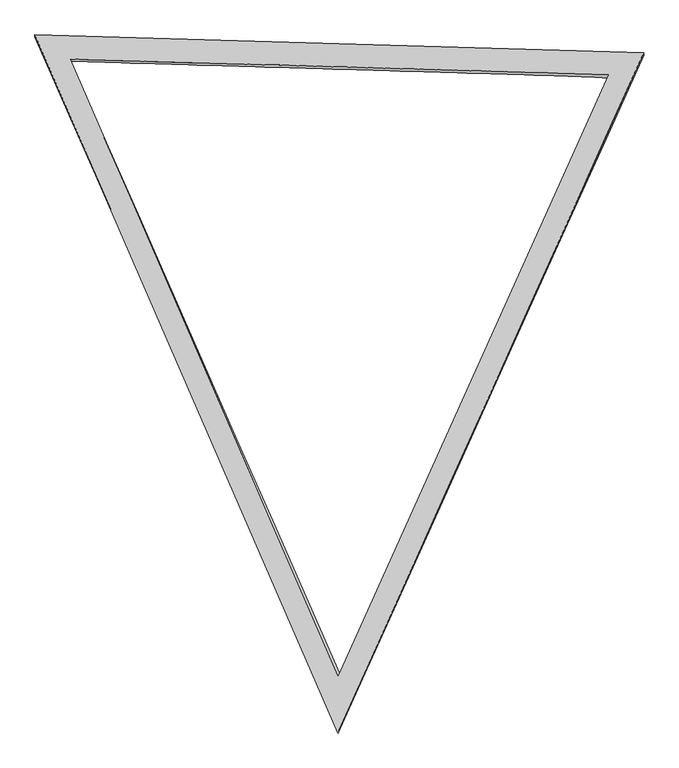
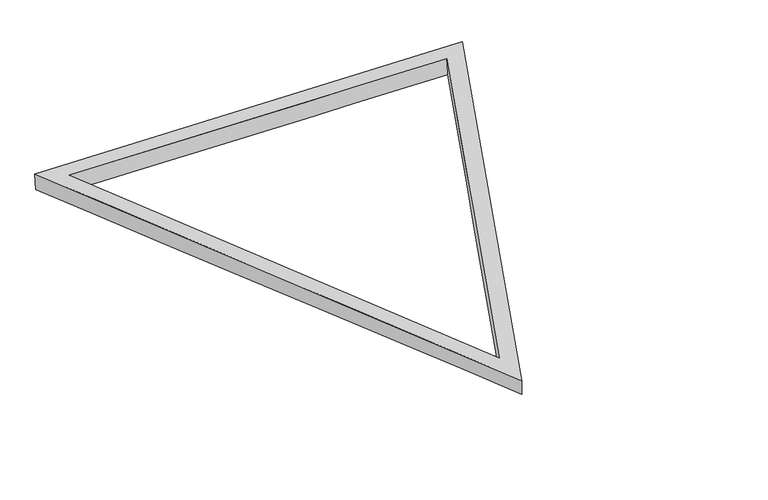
"""IFC4 building model written with IfcOpenShell, lengths in millimetres: plate geometry."""

from ifc_helpers import new_model, si_unit, frame, origin, place, context, project, spatial, source, transform, mapped, element, save
from ifc_brep_helpers import plane_surface, spline_surface, advanced_brep


def plate_7c1eda09(model_context):
    return source(origin(), model_context, "Body", "AdvancedBrep", [
        advanced_brep(
        [(3737.2014988, 6951.1420815, 0.0), (3735.948686, 6967.9942072, 202.4647175), (6086.6349446, 1553.0839991, 201.2965501), (6098.5329542, 1575.2148929, 0.0), (8460.8280343, 6830.6676777, 201.7054999), (8459.8644095, 6806.4057674, 0.0), (6096.0, 1075.7060845, 0.0), (8770.279231, 7000.187833, 0.0), (8771.0377348, 7024.9373762, 201.6857079), (6083.3234098, 1050.4286829, 201.2227547), (3421.720769, 7164.1060825, 0.0), (3422.2200825, 7180.3983966, 202.5451831)],
        [
            (0, 1),
            (1, 2),
            (2, 3),
            (3, 0),
            (2, 4),
            (4, 5),
            (5, 3),
            (0, 5),
            (4, 1),
            (6, 7),
            (7, 8),
            (8, 9),
            (9, 6),
            (7, 10),
            (10, 11),
            (11, 8),
            (9, 11),
            (10, 6),
        ],
        [
            spline_surface(1, 1, [[(3737.2014988, 6951.1420815, 0.0), (6098.5329542, 1575.2148929, 0.0)], [(3735.948686, 6967.9942072, 202.4647175), (6086.6349446, 1553.0839991, 201.2965501)]], [2, 2], [2, 2], [0.0, 1.0], [0.0, 1.0]),
            spline_surface(1, 1, [[(6098.5329542, 1575.2148929, 0.0), (8459.8644095, 6806.4057674, 0.0)], [(6086.6349446, 1553.0839991, 201.2965501), (8460.8280343, 6830.6676777, 201.7054999)]], [2, 2], [2, 2], [0.0, 1.0], [0.0, 1.0]),
            spline_surface(1, 1, [[(8459.8644095, 6806.4057674, 0.0), (3737.2014988, 6951.1420815, 0.0)], [(8460.8280343, 6830.6676777, 201.7054999), (3735.948686, 6967.9942072, 202.4647175)]], [2, 2], [2, 2], [0.0, 1.0], [0.0, 1.0]),
            spline_surface(1, 1, [[(6096.0, 1075.7060845, 0.0), (6083.3234098, 1050.4286829, 201.2227547)], [(8770.279231, 7000.187833, 0.0), (8771.0377348, 7024.9373762, 201.6857079)]], [2, 2], [2, 2], [0.0, 1.0], [0.0, 1.0]),
            spline_surface(1, 1, [[(8770.279231, 7000.187833, 0.0), (8771.0377348, 7024.9373762, 201.6857079)], [(3421.720769, 7164.1060825, 0.0), (3422.2200825, 7180.3983966, 202.5451831)]], [2, 2], [2, 2], [0.0, 1.0], [0.0, 1.0]),
            spline_surface(1, 1, [[(3421.720769, 7164.1060825, 0.0), (3422.2200825, 7180.3983966, 202.5451831)], [(6096.0, 1075.7060845, 0.0), (6083.3234098, 1050.4286829, 201.2227547)]], [2, 2], [2, 2], [0.0, 1.0], [0.0, 1.0]),
            plane_surface(frame((6092.1937424, 5085.2548186, 201.8178819), z_axis=(0.00015638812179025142, -0.00014784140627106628, 0.9999999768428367), x_axis=(0.39820994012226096, -0.917294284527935, -0.0001978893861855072))),
            plane_surface(frame((6096.0, 5080.0, 0.0), z_axis=(0.0, 0.0, -1.0), x_axis=(-0.4021568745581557, 0.9155707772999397, 0.0))),
        ],
        [
            (0, [[1, 2, 3, 4]]),
            (1, [[-3, 5, 6, 7]]),
            (2, [[-1, 8, -6, 9]]),
            (3, [[10, 11, 12, 13]]),
            (4, [[-11, 14, 15, 16]]),
            (5, [[-13, 17, -15, 18]]),
            (6, [[-12, -16, -17], [-2, -9, -5]]),
            (7, [[-10, -18, -14], [-4, -7, -8]]),
        ],
    ),
    ])


if __name__ == "__main__":
    model = new_model("IFC4")
    model_context = context("Model", 3, world=origin())
    ifc_project = project(units=[si_unit("LENGTHUNIT", "METRE", prefix="MILLI")], contexts=[model_context])
    site = spatial("IfcSite", under=ifc_project)
    building = spatial("IfcBuilding", under=site)
    placement = place(None, origin())
    plate_shape = plate_7c1eda09(model_context)
    element("IfcPlate", 1, ObjectType="tn_cpanel_patbase_triangle_flat_seamless_frame_02_cylinder : tn_triangle_seamless_frame_t8\"xh8\"", at=placement, inside=building, context=model_context, shape_type="MappedRepresentation", body=[
        mapped(plate_shape, transform((0.0, 0.0, 0.0), x_axis=(1.0, 0.0, 0.0), y_axis=(0.0, 1.0, 0.0), z_axis=(0.0, 0.0, 1.0))),
    ])
    save(model, "model.ifc")
